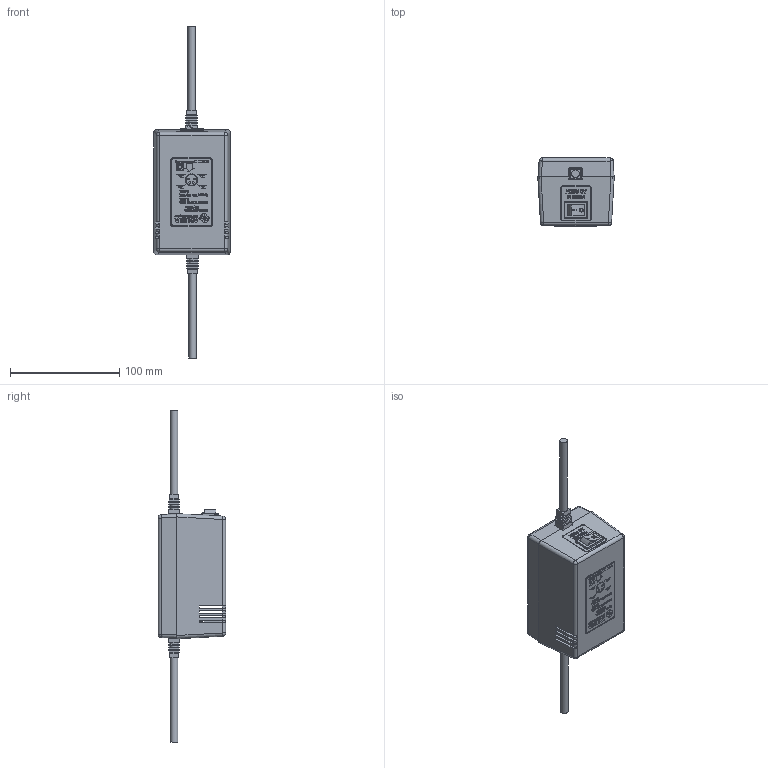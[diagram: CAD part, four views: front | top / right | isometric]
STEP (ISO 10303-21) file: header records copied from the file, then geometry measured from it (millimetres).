
FILE_DESCRIPTION(/* description */ (''),/* implementation_level */ '2;1');
FILE_NAME(/* name */ 'Y:\IvDoronin\- Фотоприемники -\- Модели -\4. Аксесуары для фотоприемников\AC.DC Adapter 12V-0,25Ax2\СБП1-17.002 МС Сетевой блок питания. Корпус Z16_Shrinkwrap 12V-0,25Ax2.stp',/* time_stamp */ '2019-09-13T18:41:08+03:00',/* author */ ('svlad'),/* organization */ (''),/* preprocessor_version */ 'ST-DEVELOPER v17',/* originating_system */ 'Autodesk Inventor 2019',/* authorisation */ '');
FILE_SCHEMA (('AUTOMOTIVE_DESIGN { 1 0 10303 214 3 1 1 }'));
Products named in the file (1): СБП1-17.002 МС Сетевой 
блок питания. Корпус 
Z16_Shrinkwrap 12V-0,25Ax2
Bounding box: 70.05 x 62.3 x 304.25 mm (x, y, z)
Volume: 118560.3 mm3; surface area: 86445.1 mm2
Topology: 1 solids, 1 shells, 2484 faces, 6774 edges, 4490 vertices
Faces by surface type: plane 1693, bspline 548, cylinder 211, sphere 16, cone 12, torus 4
Full cylindrical faces by diameter (mm): 1.8 x2, 2 x2, 2.3 x4, 2.4 x4, 3.9 x4, 6 x4, 7 x2
Entity records: 90585 total; most frequent: CARTESIAN_POINT 28386, ORIENTED_EDGE 13530, DIRECTION 10013, EDGE_CURVE 6765, LINE 5183, VECTOR 5183, VERTEX_POINT 4490, EDGE_LOOP 2737
